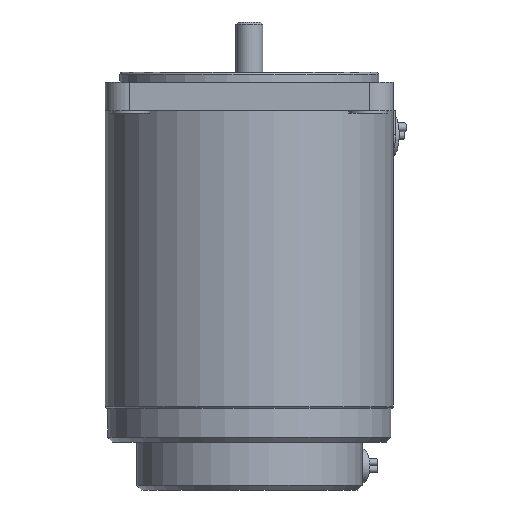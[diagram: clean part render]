
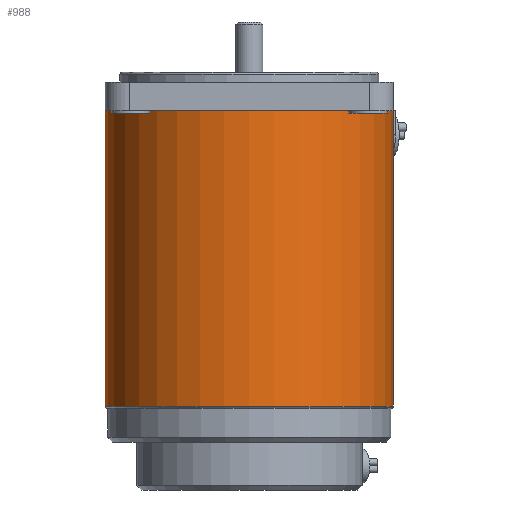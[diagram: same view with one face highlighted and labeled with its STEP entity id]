
A CAD part, front view. The second image highlights one B-rep face of the part: STEP entity #988.
In plain terms, the highlighted cylindrical face has radius 30 mm (diameter 60 mm), a full revolution.
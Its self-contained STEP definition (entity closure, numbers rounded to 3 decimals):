
#751=CARTESIAN_POINT('',(29.33,6.304,74.0));
#752=VERTEX_POINT('',#751);
#759=CARTESIAN_POINT('',(25.197,16.282,74.0));
#760=VERTEX_POINT('',#759);
#761=CARTESIAN_POINT('',(25.197,16.282,74.0));
#762=CARTESIAN_POINT('',(25.197,16.282,73.32));
#763=CARTESIAN_POINT('',(25.273,16.166,72.596));
#764=CARTESIAN_POINT('',(25.57,15.692,71.266));
#765=CARTESIAN_POINT('',(25.79,15.334,70.66));
#766=CARTESIAN_POINT('',(26.27,14.496,69.703));
#767=CARTESIAN_POINT('',(26.562,13.961,69.288));
#768=CARTESIAN_POINT('',(27.156,12.767,68.736));
#769=CARTESIAN_POINT('',(27.456,12.108,68.6));
#770=CARTESIAN_POINT('',(27.976,10.853,68.6));
#771=CARTESIAN_POINT('',(28.23,10.174,68.736));
#772=CARTESIAN_POINT('',(28.654,8.91,69.288));
#773=CARTESIAN_POINT('',(28.826,8.325,69.703));
#774=CARTESIAN_POINT('',(29.079,7.394,70.66));
#775=CARTESIAN_POINT('',(29.177,6.985,71.266));
#776=CARTESIAN_POINT('',(29.302,6.44,72.596));
#777=CARTESIAN_POINT('',(29.33,6.304,73.32));
#778=CARTESIAN_POINT('',(29.33,6.304,74.0));
#779=B_SPLINE_CURVE_WITH_KNOTS('',3,(#761,#762,#763,#764,#765,#766,#767,#768,#769,#770,#771,#772,#773,#774,#775,#776,#777,#778),.UNSPECIFIED.,.F.,.U.,(4,2,2,2,2,2,2,2,4),(1.631,1.835,2.039,2.243,2.447,2.651,2.854,3.058,3.262),.UNSPECIFIED.);
#780=EDGE_CURVE('',#760,#752,#779,.T.);
#807=CARTESIAN_POINT('',(29.33,6.304,79.0));
#808=VERTEX_POINT('',#807);
#815=CARTESIAN_POINT('',(29.33,6.304,74.0));
#816=DIRECTION('',(0.0,0.0,1.0));
#817=VECTOR('',#816,5.0);
#818=LINE('',#815,#817);
#819=EDGE_CURVE('',#752,#808,#818,.T.);
#830=CARTESIAN_POINT('',(25.197,16.282,79.0));
#831=VERTEX_POINT('',#830);
#832=CARTESIAN_POINT('',(25.197,16.282,79.0));
#833=DIRECTION('',(0.0,0.0,-1.0));
#834=VECTOR('',#833,5.0);
#835=LINE('',#832,#834);
#836=EDGE_CURVE('',#831,#760,#835,.T.);
#874=CARTESIAN_POINT('',(0.0,30.0,79.0));
#875=VERTEX_POINT('',#874);
#876=CARTESIAN_POINT('',(0.0,0.0,79.0));
#877=DIRECTION('',(0.0,0.0,-1.0));
#878=DIRECTION('',(-1.0,0.0,0.0));
#879=AXIS2_PLACEMENT_3D('',#876,#877,#878);
#880=CIRCLE('',#879,30.0);
#881=EDGE_CURVE('',#875,#831,#880,.T.);
#928=CARTESIAN_POINT('',(-30.0,0.,17.5));
#929=VERTEX_POINT('',#928);
#930=CARTESIAN_POINT('',(0.0,0.0,17.5));
#931=DIRECTION('',(0.0,0.0,-1.0));
#932=DIRECTION('',(1.0,0.0,0.0));
#933=AXIS2_PLACEMENT_3D('',#930,#931,#932);
#934=CIRCLE('',#933,30.0);
#935=EDGE_CURVE('',#929,#929,#934,.T.);
#940=CARTESIAN_POINT('',(0.0,0.0,0.0));
#941=DIRECTION('',(0.0,0.0,1.0));
#942=DIRECTION('',(-1.0,0.0,0.0));
#943=AXIS2_PLACEMENT_3D('',#940,#941,#942);
#944=CYLINDRICAL_SURFACE('',#943,30.0);
#945=ORIENTED_EDGE('',*,*,#780,.T.);
#946=ORIENTED_EDGE('',*,*,#819,.T.);
#947=CARTESIAN_POINT('',(30.0,0.0,79.0));
#948=VERTEX_POINT('',#947);
#949=CARTESIAN_POINT('',(0.0,0.0,79.0));
#950=DIRECTION('',(0.0,0.0,-1.0));
#951=DIRECTION('',(-1.0,0.0,0.0));
#952=AXIS2_PLACEMENT_3D('',#949,#950,#951);
#953=CIRCLE('',#952,30.0);
#954=EDGE_CURVE('',#808,#948,#953,.T.);
#955=ORIENTED_EDGE('',*,*,#954,.T.);
#956=CARTESIAN_POINT('',(0.0,-30.0,79.0));
#957=VERTEX_POINT('',#956);
#958=CARTESIAN_POINT('',(0.0,0.0,79.0));
#959=DIRECTION('',(0.0,0.0,-1.0));
#960=DIRECTION('',(-1.0,0.0,0.0));
#961=AXIS2_PLACEMENT_3D('',#958,#959,#960);
#962=CIRCLE('',#961,30.0);
#963=EDGE_CURVE('',#948,#957,#962,.T.);
#964=ORIENTED_EDGE('',*,*,#963,.T.);
#965=CARTESIAN_POINT('',(-30.0,0.0,79.0));
#966=VERTEX_POINT('',#965);
#967=CARTESIAN_POINT('',(0.0,0.0,79.0));
#968=DIRECTION('',(0.0,0.0,-1.0));
#969=DIRECTION('',(-1.0,0.0,0.0));
#970=AXIS2_PLACEMENT_3D('',#967,#968,#969);
#971=CIRCLE('',#970,30.0);
#972=EDGE_CURVE('',#957,#966,#971,.T.);
#973=ORIENTED_EDGE('',*,*,#972,.T.);
#974=CARTESIAN_POINT('',(0.0,0.0,79.0));
#975=DIRECTION('',(0.0,0.0,-1.0));
#976=DIRECTION('',(-1.0,0.0,0.0));
#977=AXIS2_PLACEMENT_3D('',#974,#975,#976);
#978=CIRCLE('',#977,30.0);
#979=EDGE_CURVE('',#966,#875,#978,.T.);
#980=ORIENTED_EDGE('',*,*,#979,.T.);
#981=ORIENTED_EDGE('',*,*,#881,.T.);
#982=ORIENTED_EDGE('',*,*,#836,.T.);
#983=EDGE_LOOP('',(#945,#946,#955,#964,#973,#980,#981,#982));
#984=FACE_OUTER_BOUND('',#983,.T.);
#985=ORIENTED_EDGE('',*,*,#935,.F.);
#986=EDGE_LOOP('',(#985));
#987=FACE_BOUND('',#986,.T.);
#988=ADVANCED_FACE('',(#984,#987),#944,.T.);
